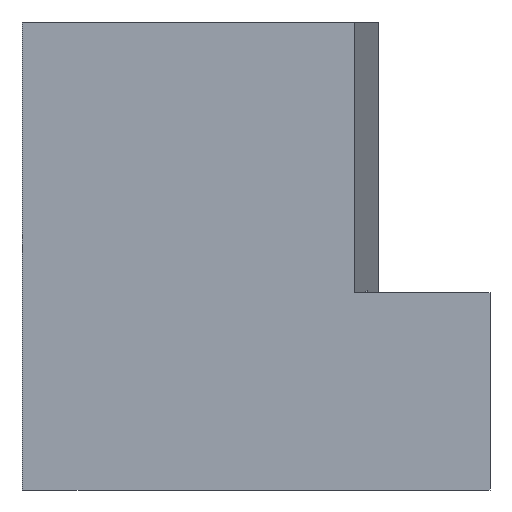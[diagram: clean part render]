
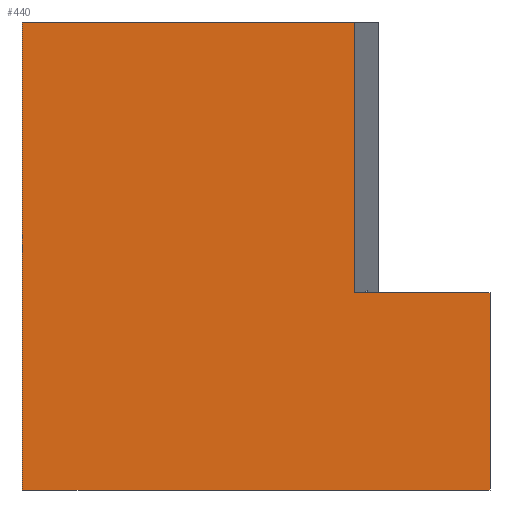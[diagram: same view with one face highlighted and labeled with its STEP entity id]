
A CAD part, front view. The second image highlights one B-rep face of the part: STEP entity #440.
In plain terms, the highlighted planar face has unit normal (0, -1, 0).
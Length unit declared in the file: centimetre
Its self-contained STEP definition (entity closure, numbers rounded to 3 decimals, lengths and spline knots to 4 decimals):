
#18 = ORIENTED_EDGE ( 'NONE', *, *, #1189, .T. ) ;
#64 = VERTEX_POINT ( 'NONE', #426 ) ;
#69 = DIRECTION ( 'NONE',  ( 0., 0., -1. ) ) ;
#97 = DIRECTION ( 'NONE',  ( 1., 0., 0. ) ) ;
#124 = ORIENTED_EDGE ( 'NONE', *, *, #158, .T. ) ;
#158 = EDGE_CURVE ( 'NONE', #336, #479, #437, .T. ) ;
#189 = CARTESIAN_POINT ( 'NONE',  ( 0., 0., 1000. ) ) ;
#208 = EDGE_CURVE ( 'NONE', #336, #824, #1195, .T. ) ;
#226 = LINE ( 'NONE', #1007, #611 ) ;
#227 = DIRECTION ( 'NONE',  ( 0., 0., 1. ) ) ;
#231 = AXIS2_PLACEMENT_3D ( 'NONE', #189, #1217, #746 ) ;
#256 = CARTESIAN_POINT ( 'NONE',  ( 1000., 0., 1000. ) ) ;
#336 = VERTEX_POINT ( 'NONE', #740 ) ;
#360 = CARTESIAN_POINT ( 'NONE',  ( 1000., 0., 421.9553 ) ) ;
#382 = VERTEX_POINT ( 'NONE', #1109 ) ;
#390 = ORIENTED_EDGE ( 'NONE', *, *, #208, .F. ) ;
#426 = CARTESIAN_POINT ( 'NONE',  ( 0., 0., 0. ) ) ;
#437 = LINE ( 'NONE', #995, #1102 ) ;
#440 = ADVANCED_FACE ( 'NONE', ( #450 ), #457, .F. ) ;
#443 = ORIENTED_EDGE ( 'NONE', *, *, #663, .F. ) ;
#450 = FACE_OUTER_BOUND ( 'NONE', #620, .T. ) ;
#452 = LINE ( 'NONE', #750, #794 ) ;
#454 = ORIENTED_EDGE ( 'NONE', *, *, #974, .F. ) ;
#457 = PLANE ( 'NONE',  #231 ) ;
#479 = VERTEX_POINT ( 'NONE', #761 ) ;
#498 = VERTEX_POINT ( 'NONE', #950 ) ;
#517 = CARTESIAN_POINT ( 'NONE',  ( 710.4294, 0., 421.9553 ) ) ;
#611 = VECTOR ( 'NONE', #795, 100. ) ;
#615 = ORIENTED_EDGE ( 'NONE', *, *, #1066, .T. ) ;
#620 = EDGE_LOOP ( 'NONE', ( #390, #124, #443, #615, #18, #454 ) ) ;
#624 = VECTOR ( 'NONE', #719, 100. ) ;
#663 = EDGE_CURVE ( 'NONE', #382, #479, #226, .T. ) ;
#706 = DIRECTION ( 'NONE',  ( 1., 0., 0. ) ) ;
#719 = DIRECTION ( 'NONE',  ( 0., 0., -1. ) ) ;
#740 = CARTESIAN_POINT ( 'NONE',  ( 710.4294, 0., 421.9553 ) ) ;
#746 = DIRECTION ( 'NONE',  ( 0., 0., 1. ) ) ;
#750 = CARTESIAN_POINT ( 'NONE',  ( 0., 0., 0. ) ) ;
#761 = CARTESIAN_POINT ( 'NONE',  ( 710.4294, 0., 1000. ) ) ;
#794 = VECTOR ( 'NONE', #97, 100. ) ;
#795 = DIRECTION ( 'NONE',  ( 1., 0., 0. ) ) ;
#824 = VERTEX_POINT ( 'NONE', #360 ) ;
#870 = VECTOR ( 'NONE', #69, 100. ) ;
#892 = LINE ( 'NONE', #256, #870 ) ;
#911 = LINE ( 'NONE', #1192, #624 ) ;
#950 = CARTESIAN_POINT ( 'NONE',  ( 1000., 0., 0. ) ) ;
#974 = EDGE_CURVE ( 'NONE', #824, #498, #892, .T. ) ;
#995 = CARTESIAN_POINT ( 'NONE',  ( 710.4294, 0., 421.9553 ) ) ;
#1007 = CARTESIAN_POINT ( 'NONE',  ( 0., 0., 1000. ) ) ;
#1066 = EDGE_CURVE ( 'NONE', #382, #64, #911, .T. ) ;
#1102 = VECTOR ( 'NONE', #227, 100. ) ;
#1109 = CARTESIAN_POINT ( 'NONE',  ( 0., 0., 1000. ) ) ;
#1189 = EDGE_CURVE ( 'NONE', #64, #498, #452, .T. ) ;
#1192 = CARTESIAN_POINT ( 'NONE',  ( 0., 0., 1000. ) ) ;
#1195 = LINE ( 'NONE', #517, #1200 ) ;
#1200 = VECTOR ( 'NONE', #706, 100. ) ;
#1217 = DIRECTION ( 'NONE',  ( 0., 1., 0. ) ) ;
